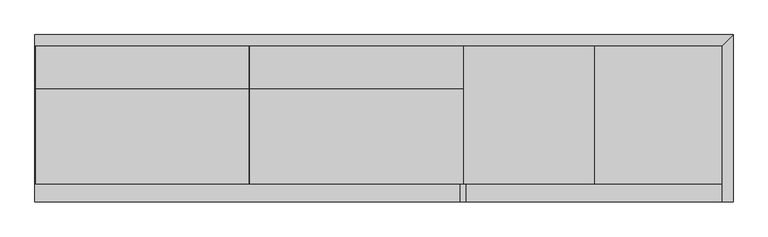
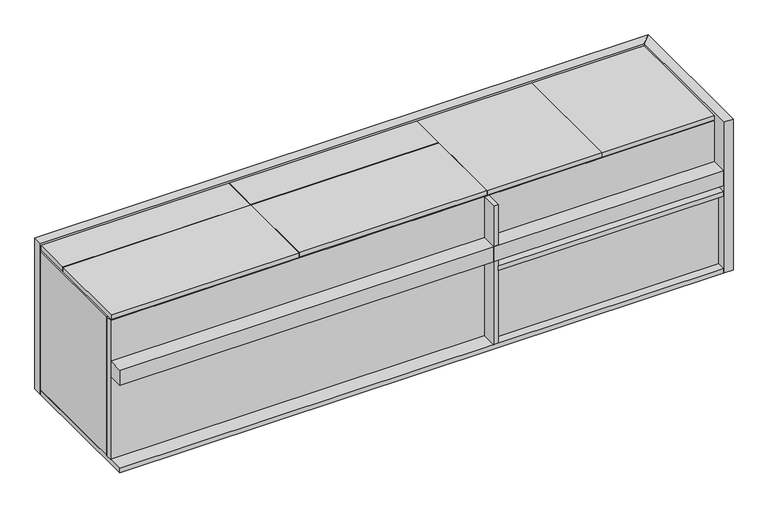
"""IFC4 building model written with IfcOpenShell, lengths in millimetres: proxy geometry, AERO^OFFICE 1_96 CREDENZA RIGHT-PARTS SOLID."""

import ifcopenshell
import ifcopenshell.guid

model = None  # the IFC model being written
_history = None  # IfcOwnerHistory: only IFC2X3 demands one
_inside = {}  # id of a spatial element -> (the spatial element, [elements in it])
_under = {}  # id of a project, library or spatial element -> (it, [spatial elements below it])
_declared = {}  # id of a project -> (the project, [libraries it declares])
_typed = {}  # id of a type object -> (the type object, [elements of that type])
_made_of = {}  # id of a material, layer set ... -> (it, [elements and type objects made of it])


def new_model(schema):
    """Start an empty IFC model of exactly this schema.

    Asked for "IFC4X3", IfcOpenShell would pick the latest addendum, in which some entities
    have other attributes; the version numbers below select the first issue.
    IFC2X3 requires an IfcOwnerHistory on every rooted entity: one is made here for all.
    """
    global model, _history
    if schema == "IFC4X3":
        model = ifcopenshell.file(schema_version=(4, 3, 0, 0))
    else:
        model = ifcopenshell.file(schema=schema)
    _inside.clear()
    _under.clear()
    _declared.clear()
    _typed.clear()
    _made_of.clear()
    _history = None
    if model.schema == "IFC2X3":
        org = make("IfcOrganization", Name="unknown")
        user = make(
            "IfcPersonAndOrganization",
            ThePerson=make("IfcPerson", FamilyName="unknown"),
            TheOrganization=org,
        )
        app = make(
            "IfcApplication",
            ApplicationDeveloper=org,
            Version="unknown",
            ApplicationFullName="unknown",
            ApplicationIdentifier="unknown",
        )
        _history = make(
            "IfcOwnerHistory",
            OwningUser=user,
            OwningApplication=app,
            ChangeAction="ADDED",
            CreationDate=0,
        )
    return model


def make(cls, **values):
    """One entity of the class cls with the attributes given. An attribute that is None is left unset."""
    return model.create_entity(
        cls, **{name: value for name, value in values.items() if value is not None}
    )


def rooted(cls, **values):
    """An entity with a GlobalId (a new one), such as an element, a storey or a relation."""
    return make(cls, GlobalId=ifcopenshell.guid.new(), OwnerHistory=_history, **values)


def si_unit(unit_type, name, prefix=None):
    """IfcSIUnit, for example si_unit("LENGTHUNIT", "METRE", prefix="MILLI")."""
    return make("IfcSIUnit", UnitType=unit_type, Prefix=prefix, Name=name)


def assignment(units):
    """IfcUnitAssignment: the units of a project."""
    return None if units is None else make("IfcUnitAssignment", Units=units)


def point(xyz):
    """IfcCartesianPoint."""
    return None if xyz is None else make("IfcCartesianPoint", Coordinates=xyz)


def direction(xyz):
    """IfcDirection."""
    return None if xyz is None else make("IfcDirection", DirectionRatios=xyz)


def frame(location, z_axis=None, x_axis=None):
    """IfcAxis2Placement3D, a coordinate frame: its origin and axes. An axis left out is left unset."""
    return make(
        "IfcAxis2Placement3D",
        Location=point(location),
        Axis=direction(z_axis),
        RefDirection=direction(x_axis),
    )


def origin():
    """The frame at (0, 0, 0) with its axes left unset."""
    return frame((0.0, 0.0, 0.0))


def place(relative_to, where):
    """IfcLocalPlacement: puts the frame where relative to a parent placement (None: the world)."""
    return make(
        "IfcLocalPlacement", PlacementRelTo=relative_to, RelativePlacement=where
    )


def context(
    kind, dimensions, precision=None, world=None, true_north=None, identifier=None
):
    """IfcGeometricRepresentationContext, for example the 3D "Model" context."""
    return make(
        "IfcGeometricRepresentationContext",
        ContextIdentifier=identifier,
        ContextType=kind,
        CoordinateSpaceDimension=dimensions,
        Precision=precision,
        WorldCoordinateSystem=world,
        TrueNorth=true_north,
    )


def project(units=None, contexts=None):
    """IfcProject with its units and contexts."""
    return rooted(
        "IfcProject",
        Name="project",
        RepresentationContexts=contexts,
        UnitsInContext=assignment(units),
    )


def spatial(cls, under=None, at=None, **own):
    """A site, building, storey or space (cls), placed at a placement, below another one or the project."""
    s = rooted(cls, ObjectPlacement=at, **own)
    if under is not None:
        _under.setdefault(under.id(), (under, []))[1].append(s)
    return s


def polyline(points):
    """IfcPolyline through the points."""
    return make("IfcPolyline", Points=[point(p) for p in points])


def outline(outer, holes=None, kind="AREA"):
    """IfcArbitraryClosedProfileDef: a profile drawn as a closed curve; with holes, ...WithVoids."""
    if holes is None:
        return make("IfcArbitraryClosedProfileDef", ProfileType=kind, OuterCurve=outer)
    return make(
        "IfcArbitraryProfileDefWithVoids",
        ProfileType=kind,
        OuterCurve=outer,
        InnerCurves=holes,
    )


def extrude(swept, where, along, depth):
    """IfcExtrudedAreaSolid: the profile swept, set in the frame where, extruded along a direction by depth."""
    return make(
        "IfcExtrudedAreaSolid",
        SweptArea=swept,
        Position=where,
        ExtrudedDirection=direction(along),
        Depth=depth,
    )


def shape(context_of_items, identifier, shape_type, items):
    """IfcShapeRepresentation: the items that make up one representation, for example the "Body"."""
    return make(
        "IfcShapeRepresentation",
        ContextOfItems=context_of_items,
        RepresentationIdentifier=identifier,
        RepresentationType=shape_type,
        Items=items,
    )


def source(mapping_origin, context_of_items, identifier, shape_type, items):
    """IfcRepresentationMap: a shape defined once, which mapped items show again and again."""
    return make(
        "IfcRepresentationMap",
        MappingOrigin=mapping_origin,
        MappedRepresentation=shape(context_of_items, identifier, shape_type, items),
    )


def transform(
    local_origin,
    x_axis=None,
    y_axis=None,
    z_axis=None,
    scale=None,
    scale2=None,
    scale3=None,
    uniform=True,
):
    """IfcCartesianTransformationOperator3D, or its non-uniform kind. x_axis, y_axis, z_axis: its Axis1, 2, 3."""
    if uniform:
        return make(
            "IfcCartesianTransformationOperator3D",
            Axis1=direction(x_axis),
            Axis2=direction(y_axis),
            LocalOrigin=point(local_origin),
            Scale=scale,
            Axis3=direction(z_axis),
        )
    return make(
        "IfcCartesianTransformationOperator3DnonUniform",
        Axis1=direction(x_axis),
        Axis2=direction(y_axis),
        LocalOrigin=point(local_origin),
        Scale=scale,
        Axis3=direction(z_axis),
        Scale2=scale2,
        Scale3=scale3,
    )


def mapped(mapping_source, mapping_target):
    """IfcMappedItem: shows the shape of a source again, moved by a transform."""
    return make(
        "IfcMappedItem", MappingSource=mapping_source, MappingTarget=mapping_target
    )


def made_of(thing, what):
    """Note that an element or type object is made of a material, layer set ...; save() writes the relation."""
    if what is not None:
        _made_of.setdefault(what.id(), (what, []))[1].append(thing)
    return thing


def element(
    cls,
    number,
    at=None,
    inside=None,
    cuts=None,
    type_object=None,
    material=None,
    context=None,
    identifier="Body",
    shape_type=None,
    held_by="IfcProductDefinitionShape",
    body=None,
    shapes=None,
    **own,
):
    """One element of the class cls, such as IfcWall. Its Tag is "e" and its number.

    at: its placement. inside: the storey or other place that contains it. cuts: it is an
    opening in that element (IfcRelVoidsElement). A single representation is given by context,
    identifier, shape_type and body (its items); several are given by shapes. held_by: the class
    of the entity that holds the representations. save() writes the other relations.
    """
    e = rooted(cls, Tag="e%d" % number, ObjectPlacement=at, **own)
    if body is not None:
        shapes = [shape(context, identifier, shape_type, body)]
    if shapes is not None:
        e.Representation = make(held_by, Representations=shapes)
    if inside is not None:
        _inside.setdefault(inside.id(), (inside, []))[1].append(e)
    if cuts is not None:
        rooted(
            "IfcRelVoidsElement", RelatingBuildingElement=cuts, RelatedOpeningElement=e
        )
    if type_object is not None:
        _typed.setdefault(type_object.id(), (type_object, []))[1].append(e)
    return made_of(e, material)


def aggregate(whole, parts):
    """IfcRelAggregates: a whole, such as a stair, and the parts it consists of."""
    return rooted("IfcRelAggregates", RelatingObject=whole, RelatedObjects=parts)


def save(model, path):
    """Write the relations noted so far, then the file.

    IfcRelAggregates (storeys below a building ...), IfcRelContainedInSpatialStructure (elements
    in a storey), IfcRelDefinesByType, IfcRelAssociatesMaterial and IfcRelDeclares: one each for
    every whole, place, type object, material and project.
    """
    for whole, parts in _under.values():
        aggregate(whole, parts)
    for where, things in _inside.values():
        rooted(
            "IfcRelContainedInSpatialStructure",
            RelatedElements=things,
            RelatingStructure=where,
        )
    for kind, things in _typed.values():
        rooted("IfcRelDefinesByType", RelatedObjects=things, RelatingType=kind)
    for what, things in _made_of.values():
        rooted("IfcRelAssociatesMaterial", RelatedObjects=things, RelatingMaterial=what)
    for by, libraries in _declared.values():
        rooted("IfcRelDeclares", RelatingContext=by, RelatedDefinitions=libraries)
    model.write(path)


def generic_models_8c807e3c(model_context):
    return source(origin(), model_context, "Body", "SweptSolid", [
        extrude(outline(polyline([(2400.3, -457.2), (2400.3, -482.6), (0.0, -482.6), (0.0, -457.2), (2400.3, -457.2)])), frame((0.0, 0.0, -615.95), z_axis=(0.0, 0.0, 1.0), x_axis=(1.0, 0.0, 0.0)), (0.0, 0.0, 1.0), 584.2),
        extrude(outline(polyline([(0.0, -546.1), (0.0, 0.0), (2400.3, 0.0), (2400.3, -546.1), (0.0, -546.1)])), frame((0.0, 0.0, -635.0), z_axis=(0.0, 0.0, 1.0), x_axis=(1.0, 0.0, 0.0)), (0.0, 0.0, 1.0), 19.05),
        extrude(outline(polyline([(747.7125, 9.525), (747.7125, -150.01875), (2.38125, -150.01875), (2.38125, 9.525), (747.7125, 9.525)])), frame((0.0, 0.0, -28.575), z_axis=(0.0, 0.0, 1.0), x_axis=(1.0, 0.0, 0.0)), (0.0, 0.0, 1.0), 19.05),
        extrude(outline(polyline([(1495.425, 9.525), (1495.425, -150.01875), (750.09375, -150.01875), (750.09375, 9.525), (1495.425, 9.525)])), frame((0.0, 0.0, -28.575), z_axis=(0.0, 0.0, 1.0), x_axis=(1.0, 0.0, 0.0)), (0.0, 0.0, 1.0), 19.05),
        extrude(outline(polyline([(1952.625, 9.525), (1952.625, -482.6), (1497.80625, -482.6), (1497.80625, 9.525), (1952.625, 9.525)])), frame((0.0, 0.0, -28.575), z_axis=(0.0, 0.0, 1.0), x_axis=(1.0, 0.0, 0.0)), (0.0, 0.0, 1.0), 19.05),
        extrude(outline(polyline([(2409.825, -482.6), (1955.00625, -482.6), (1955.00625, 9.525), (2409.825, 9.525), (2409.825, -482.6)])), frame((0.0, 0.0, -28.575), z_axis=(0.0, 0.0, 1.0), x_axis=(1.0, 0.0, 0.0)), (0.0, 0.0, 1.0), 19.05),
        extrude(outline(polyline([(747.7125, -482.6), (2.38125, -482.6), (2.38125, -152.4), (747.7125, -152.4), (747.7125, -482.6)])), frame((0.0, 0.0, -28.575), z_axis=(0.0, 0.0, 1.0), x_axis=(1.0, 0.0, 0.0)), (0.0, 0.0, 1.0), 19.05),
        extrude(outline(polyline([(1495.425, -482.6), (750.09375, -482.6), (750.09375, -152.4), (1495.425, -152.4), (1495.425, -482.6)])), frame((0.0, 0.0, -28.575), z_axis=(0.0, 0.0, 1.0), x_axis=(1.0, 0.0, 0.0)), (0.0, 0.0, 1.0), 19.05),
        extrude(outline(polyline([(2400.3, 0.0), (2400.3, -546.1), (1504.95, -546.1), (1504.95, 0.0), (2400.3, 0.0)])), frame((0.0, 0.0, -311.2135), z_axis=(0.0, 0.0, 1.0), x_axis=(1.0, 0.0, 0.0)), (0.0, 0.0, 1.0), 19.05),
        extrude(outline(polyline([(762.0, -457.2), (742.95, -457.2), (742.95, 0.0), (762.0, 0.0), (762.0, -457.2)])), frame((0.0, 0.0, -615.95), z_axis=(0.0, 0.0, 1.0), x_axis=(1.0, 0.0, 0.0)), (0.0, 0.0, 1.0), 584.2),
        extrude(outline(polyline([(0.0, -482.6), (2400.3, -482.6), (2400.3, -546.1), (0.0, -546.1), (0.0, -482.6)])), frame((0.0, 0.0, -266.7), z_axis=(0.0, 0.0, 1.0), x_axis=(1.0, 0.0, 0.0)), (0.0, 0.0, 1.0), 63.5),
        extrude(outline(polyline([(1485.9, -546.1), (1485.9, 0.0), (1504.95, 0.0), (1504.95, -546.1), (1485.9, -546.1)])), frame((0.0, 0.0, -615.95), z_axis=(0.0, 0.0, 1.0), x_axis=(1.0, 0.0, 0.0)), (0.0, 0.0, 1.0), 584.2),
        extrude(outline(polyline([(19.05, -457.2), (0.0, -457.2), (0.0, 0.0), (19.05, 0.0), (19.05, -457.2)])), frame((0.0, 0.0, -615.95), z_axis=(0.0, 0.0, 1.0), x_axis=(1.0, 0.0, 0.0)), (0.0, 0.0, 1.0), 584.2),
        extrude(outline(polyline([(1504.95, -511.6576), (1504.95, -492.6076), (2400.3, -492.6076), (2400.3, -511.6576), (1504.95, -511.6576)])), frame((0.0, 0.0, -615.95), z_axis=(0.0, 0.0, 1.0), x_axis=(1.0, 0.0, 0.0)), (0.0, 0.0, 1.0), 304.7365),
        extrude(outline(polyline([(2438.4, 38.1), (2400.3, 0.0), (0.0, 0.0), (0.0, 38.1), (2438.4, 38.1)])), frame((0.0, 0.0, -635.0), z_axis=(0.0, 0.0, 1.0), x_axis=(1.0, 0.0, 0.0)), (0.0, 0.0, 1.0), 635.0),
        extrude(outline(polyline([(2438.4, 38.1), (2438.4, -546.1), (2400.3, -546.1), (2400.3, 0.0), (2438.4, 38.1)])), frame((0.0, 0.0, -635.0), z_axis=(0.0, 0.0, 1.0), x_axis=(1.0, 0.0, 0.0)), (0.0, 0.0, 1.0), 635.0),
    ])


if __name__ == "__main__":
    model = new_model("IFC4")
    model_context = context("Model", 3, world=origin())
    ifc_project = project(units=[si_unit("LENGTHUNIT", "METRE", prefix="MILLI")], contexts=[model_context])
    site = spatial("IfcSite", under=ifc_project)
    building = spatial("IfcBuilding", under=site)
    placement = place(None, origin())
    generic_models_shape = generic_models_8c807e3c(model_context)
    element("IfcBuildingElementProxy", 1, Name="AERO^OFFICE 1_96 CREDENZA RIGHT-PARTS SOLID", ObjectType="AERO^OFFICE 1_96 CREDENZA RIGHT-PARTS SOLID", at=placement, inside=building, context=model_context, shape_type="MappedRepresentation", body=[
        mapped(generic_models_shape, transform((0.0, 0.0, 0.0), x_axis=(1.0, 0.0, 0.0), y_axis=(0.0, 1.0, 0.0), z_axis=(0.0, 0.0, 1.0))),
    ])
    save(model, "model.ifc")
